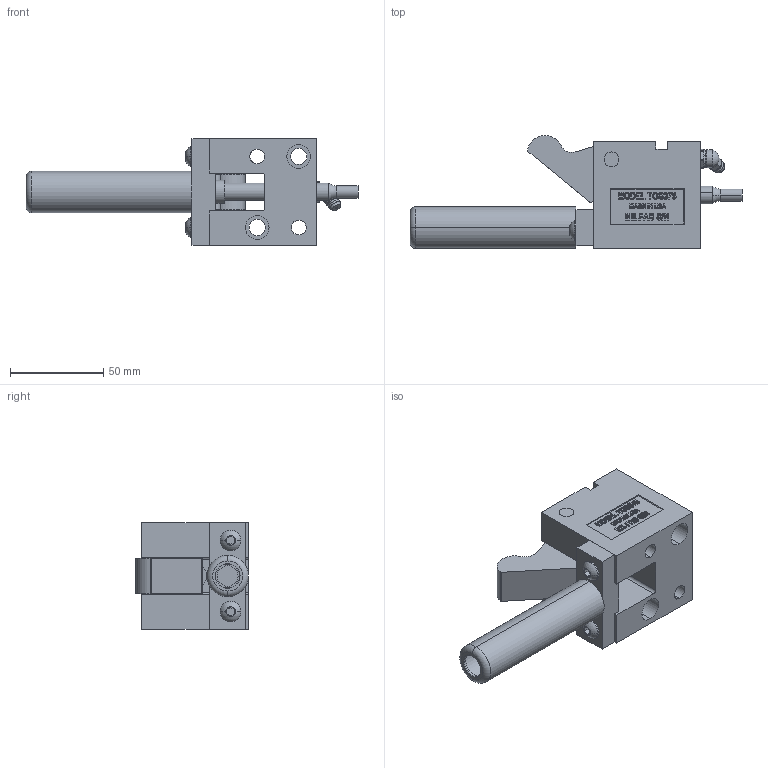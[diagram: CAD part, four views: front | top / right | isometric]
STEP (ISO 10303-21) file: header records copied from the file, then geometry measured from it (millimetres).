
FILE_DESCRIPTION (( 'STEP AP214' ), '1' );
FILE_NAME ('TOS37545-O.STEP', '2014-01-05T21:46:25', ( 'user' ), ( '' ), 'SwSTEP 2.0', 'SolidWorks 2009', '' );
FILE_SCHEMA (( 'AUTOMOTIVE_DESIGN' ));
Length unit declared in the file: inch
Products named in the file (10): 375-O-STRAP; O-375-POINT; OS375-PUNCH; 375 PIVOT PIN; GREASE ZERK; 375-OFFSET TRIGGER; TOS375-BODY; TOS37545-O; 1-4 SCREW; OS375-CAGE
Assembly tree (10 placements, depth 2):
  TOS37545-O
    O-375-POINT
    1-4 SCREW  x2
    OS375-PUNCH
    375-OFFSET TRIGGER
    TOS375-BODY
    OS375-CAGE
    GREASE ZERK
    375-O-STRAP
    375 PIVOT PIN
Bounding box: 177.8 x 60.43 x 57.15 mm (x, y, z)
Volume: 175027.6 mm3; surface area: 57823.2 mm2
Topology: 10 solids, 10 shells, 587 faces, 1523 edges, 1002 vertices
Faces by surface type: plane 340, bspline 109, cylinder 86, cone 26, torus 22, sphere 4
Entity records: 23865 total; most frequent: CARTESIAN_POINT 10227, ORIENTED_EDGE 2958, DIRECTION 2329, EDGE_CURVE 1479, VERTEX_POINT 976, VECTOR 967, LINE 967, AXIS2_PLACEMENT_3D 681
